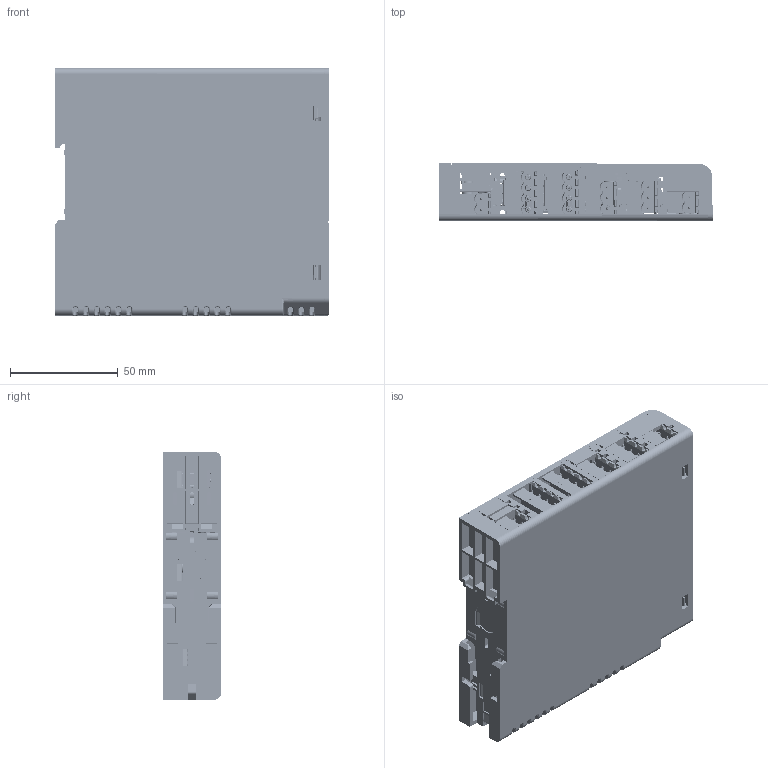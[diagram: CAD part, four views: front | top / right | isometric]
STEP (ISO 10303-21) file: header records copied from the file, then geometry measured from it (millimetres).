
FILE_DESCRIPTION(('STEP AP203'), '1');
FILE_NAME('栖闉罻', '', ('UNSPECIFIED'), ('UNSPECIFIED'), 'C3D Converter', 'C3D Toolkit', '');
FILE_SCHEMA(('CONFIG_CONTROL_DESIGN'));
Length unit declared in the file: millimetre
Products named in the file (467): Part1111; 121; PCB; Board; Open CASCADE STEP translator 6.8 1.1.1; Open CASCADE STEP translator 6.8 1.1.1.1; VD6; 5967847440; Body; Open_CASCADE_STEP_translator_6.8_12.1.1; Lead; VT2; SOT23A; C114; 1206(3216); C105; JY_8A2; DA5; SO-8; C113; 5_2n; C98; R134; 1005(0402); R118; C91; 0603(1608); VD3; C54; 0402(1005); R65; C53; KV2; G2RL_1_E; KV1; C97; C57; CAPAE530X540N; Open CASCADE STEP translator 6.8 1.19.1.1; Open CASCADE STEP translator 6.8 1.19.1.2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
Assembly tree (843 placements, depth 6):
  (unnamed)
    Part1111
    121
    PCB
      Board
        Open CASCADE STEP translator 6.8 1.1.1
          Open CASCADE STEP translator 6.8 1.1.1.1
      VD6
        5967847440
          Body
            Open_CASCADE_STEP_translator_6.8_12.1.1
          Lead  x2
      VT2
        SOT23A
      C114
        1206(3216)
      C105
        JY_8A2
      DA5
        SO-8
      C113
        5_2n
      C98
        5_2n
      R134
        1005(0402)
      R118
        1005(0402)
      C91
        0603(1608)
      VD3
        5967847440
          Body
            Open_CASCADE_STEP_translator_6.8_12.1.1
          Lead  x2
      C54
        0402(1005)
      R65
        1005(0402)
      C53
        0402(1005)
      KV2
        G2RL_1_E
      KV1
        G2RL_1_E
      C97
        JY_8A2
      C57
        CAPAE530X540N
          Open CASCADE STEP translator 6.8 1.19.1.1
          Open CASCADE STEP translator 6.8 1.19.1.2
      R60
        1005(0402)
      R59
        1005(0402)
      C50
        0603(1608)
      SB1
        0795HIM-130G
      R58
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Bounding box: 127 x 27 x 115.71 mm (x, y, z)
Volume: 143533.9 mm3; surface area: 161585.5 mm2
Topology: 786 solids, 792 shells, 35052 faces, 95898 edges, 62143 vertices
Faces by surface type: plane 19923, cylinder 8726, bspline 3607, sphere 2637, torus 97, cone 54, revolution 8
Full cylindrical faces by diameter (mm): 0.3 x2, 0.4 x11, 0.432 x2, 0.5 x7, 0.535 x5, 0.6 x20, 0.75 x3, 0.8 x10, 0.85 x22, 1 x6, 1.05 x8, 1.08 x2, 1.1 x14, 1.2 x4, 1.3 x2, 1.372 x4, 1.4 x27, 1.45 x16, 1.6 x27, 1.64 x2, 1.75 x3, 2.6 x1, 2.8 x18, 3 x3, 3.3 x4, 3.5 x6, 4.7 x1, 5.5 x10, 6 x1, 6.2 x1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
Entity records: 574718 total; most frequent: CARTESIAN_POINT 179751, ORIENTED_EDGE 61116, DIRECTION 48866, EDGE_CURVE 30580, VERTEX_POINT 20060, LINE 19246, VECTOR 19246, AXIS2_PLACEMENT_3D 14806
